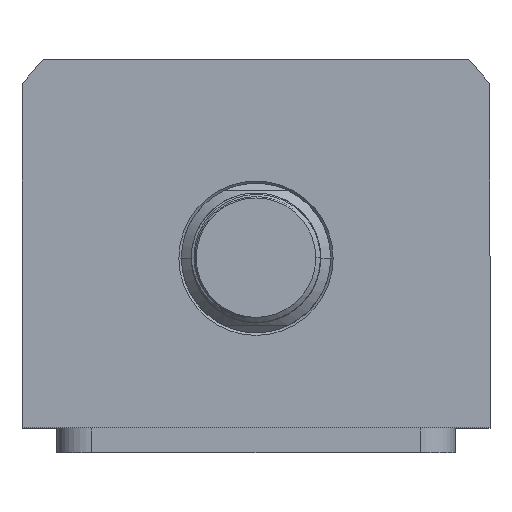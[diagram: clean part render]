
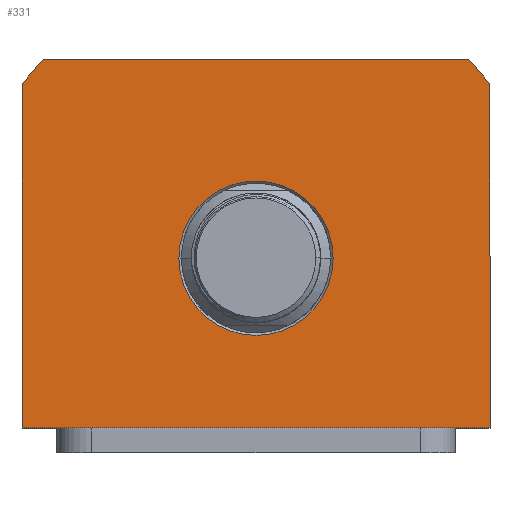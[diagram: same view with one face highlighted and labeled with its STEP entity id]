
A CAD part, top view. The second image highlights one B-rep face of the part: STEP entity #331.
In plain terms, the highlighted planar face has unit normal (0, 0, 1).
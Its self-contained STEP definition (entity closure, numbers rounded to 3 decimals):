
#48 = CARTESIAN_POINT ( 'NONE',  ( -42.688, 40., 45. ) ) ;
#329 = EDGE_CURVE ( 'NONE', #2150, #14111, #16491, .T. ) ;
#331 = ADVANCED_FACE ( 'NONE', ( #9527, #13139 ), #16691, .T. ) ;
#892 = CARTESIAN_POINT ( 'NONE',  ( -47., 34.832, 45. ) ) ;
#896 = DIRECTION ( 'NONE',  ( 0., 1., 0. ) ) ;
#1056 = CARTESIAN_POINT ( 'NONE',  ( 47., -34., 45. ) ) ;
#1117 = AXIS2_PLACEMENT_3D ( 'NONE', #2980, #10593, #12209 ) ;
#1202 = CARTESIAN_POINT ( 'NONE',  ( -42.688, 40., 45. ) ) ;
#2150 = VERTEX_POINT ( 'NONE', #14384 ) ;
#2396 = ORIENTED_EDGE ( 'NONE', *, *, #15448, .T. ) ;
#2516 = VERTEX_POINT ( 'NONE', #19700 ) ;
#2965 = DIRECTION ( 'NONE',  ( 1., 0., 0. ) ) ;
#2980 = CARTESIAN_POINT ( 'NONE',  ( 0., 0., 45. ) ) ;
#3155 = VERTEX_POINT ( 'NONE', #11515 ) ;
#3629 = VERTEX_POINT ( 'NONE', #3635 ) ;
#3635 = CARTESIAN_POINT ( 'NONE',  ( -15.5, 0., 45. ) ) ;
#4205 = DIRECTION ( 'NONE',  ( 0., 0., 1. ) ) ;
#4399 = DIRECTION ( 'NONE',  ( 0., 0., -1. ) ) ;
#4470 = AXIS2_PLACEMENT_3D ( 'NONE', #13701, #15126, #7473 ) ;
#5034 = ORIENTED_EDGE ( 'NONE', *, *, #19122, .T. ) ;
#5273 = VECTOR ( 'NONE', #9891, 1000. ) ;
#5738 = CARTESIAN_POINT ( 'NONE',  ( 0., 0., 45. ) ) ;
#5942 = VECTOR ( 'NONE', #18141, 1000. ) ;
#6251 = ORIENTED_EDGE ( 'NONE', *, *, #10085, .T. ) ;
#6442 = DIRECTION ( 'NONE',  ( 1., 0., 0. ) ) ;
#6791 = VECTOR ( 'NONE', #896, 1000. ) ;
#6944 = EDGE_LOOP ( 'NONE', ( #2396, #16350 ) ) ;
#7069 = VERTEX_POINT ( 'NONE', #11728 ) ;
#7473 = DIRECTION ( 'NONE',  ( 1., 0., 0. ) ) ;
#7781 = AXIS2_PLACEMENT_3D ( 'NONE', #13549, #4399, #12128 ) ;
#8262 = AXIS2_PLACEMENT_3D ( 'NONE', #5738, #4205, #2965 ) ;
#8615 = EDGE_CURVE ( 'NONE', #2516, #13104, #9723, .T. ) ;
#9255 = DIRECTION ( 'NONE',  ( 0., 0., 1. ) ) ;
#9511 = AXIS2_PLACEMENT_3D ( 'NONE', #16881, #9255, #6442 ) ;
#9527 = FACE_BOUND ( 'NONE', #6944, .T. ) ;
#9691 = ORIENTED_EDGE ( 'NONE', *, *, #329, .T. ) ;
#9723 = LINE ( 'NONE', #1056, #15456 ) ;
#9891 = DIRECTION ( 'NONE',  ( 0., -1., 0. ) ) ;
#10085 = EDGE_CURVE ( 'NONE', #13363, #2516, #18385, .T. ) ;
#10418 = ORIENTED_EDGE ( 'NONE', *, *, #11922, .T. ) ;
#10593 = DIRECTION ( 'NONE',  ( 0., 0., -1. ) ) ;
#10669 = EDGE_LOOP ( 'NONE', ( #15262, #10418, #12370, #9691, #5034, #6251 ) ) ;
#10825 = CIRCLE ( 'NONE', #9511, 58.5 ) ;
#10947 = CIRCLE ( 'NONE', #7781, 15.5 ) ;
#10967 = CIRCLE ( 'NONE', #4470, 58.5 ) ;
#11515 = CARTESIAN_POINT ( 'NONE',  ( 47., 34.832, 45. ) ) ;
#11728 = CARTESIAN_POINT ( 'NONE',  ( 15.5, 0., 45. ) ) ;
#11730 = DIRECTION ( 'NONE',  ( 1., 0., 0. ) ) ;
#11922 = EDGE_CURVE ( 'NONE', #13104, #3155, #17791, .T. ) ;
#12128 = DIRECTION ( 'NONE',  ( 1., 0., 0. ) ) ;
#12209 = DIRECTION ( 'NONE',  ( 1., 0., 0. ) ) ;
#12370 = ORIENTED_EDGE ( 'NONE', *, *, #12562, .T. ) ;
#12562 = EDGE_CURVE ( 'NONE', #3155, #2150, #10825, .T. ) ;
#12838 = CARTESIAN_POINT ( 'NONE',  ( -47., -34., 45. ) ) ;
#13104 = VERTEX_POINT ( 'NONE', #14203 ) ;
#13139 = FACE_OUTER_BOUND ( 'NONE', #10669, .T. ) ;
#13363 = VERTEX_POINT ( 'NONE', #892 ) ;
#13549 = CARTESIAN_POINT ( 'NONE',  ( 0., 0., 45. ) ) ;
#13701 = CARTESIAN_POINT ( 'NONE',  ( 0., 0., 45. ) ) ;
#14111 = VERTEX_POINT ( 'NONE', #48 ) ;
#14148 = CIRCLE ( 'NONE', #1117, 15.5 ) ;
#14203 = CARTESIAN_POINT ( 'NONE',  ( 47., -34., 45. ) ) ;
#14384 = CARTESIAN_POINT ( 'NONE',  ( 42.688, 40., 45. ) ) ;
#15126 = DIRECTION ( 'NONE',  ( 0., 0., 1. ) ) ;
#15262 = ORIENTED_EDGE ( 'NONE', *, *, #8615, .T. ) ;
#15448 = EDGE_CURVE ( 'NONE', #7069, #3629, #14148, .T. ) ;
#15456 = VECTOR ( 'NONE', #11730, 1000. ) ;
#16350 = ORIENTED_EDGE ( 'NONE', *, *, #19740, .T. ) ;
#16491 = LINE ( 'NONE', #1202, #5942 ) ;
#16691 = PLANE ( 'NONE',  #8262 ) ;
#16881 = CARTESIAN_POINT ( 'NONE',  ( 0., 0., 45. ) ) ;
#17786 = CARTESIAN_POINT ( 'NONE',  ( 47., 34.832, 45. ) ) ;
#17791 = LINE ( 'NONE', #17786, #6791 ) ;
#18141 = DIRECTION ( 'NONE',  ( -1., 0., 0. ) ) ;
#18385 = LINE ( 'NONE', #12838, #5273 ) ;
#19122 = EDGE_CURVE ( 'NONE', #14111, #13363, #10967, .T. ) ;
#19700 = CARTESIAN_POINT ( 'NONE',  ( -47., -34., 45. ) ) ;
#19740 = EDGE_CURVE ( 'NONE', #3629, #7069, #10947, .T. ) ;
